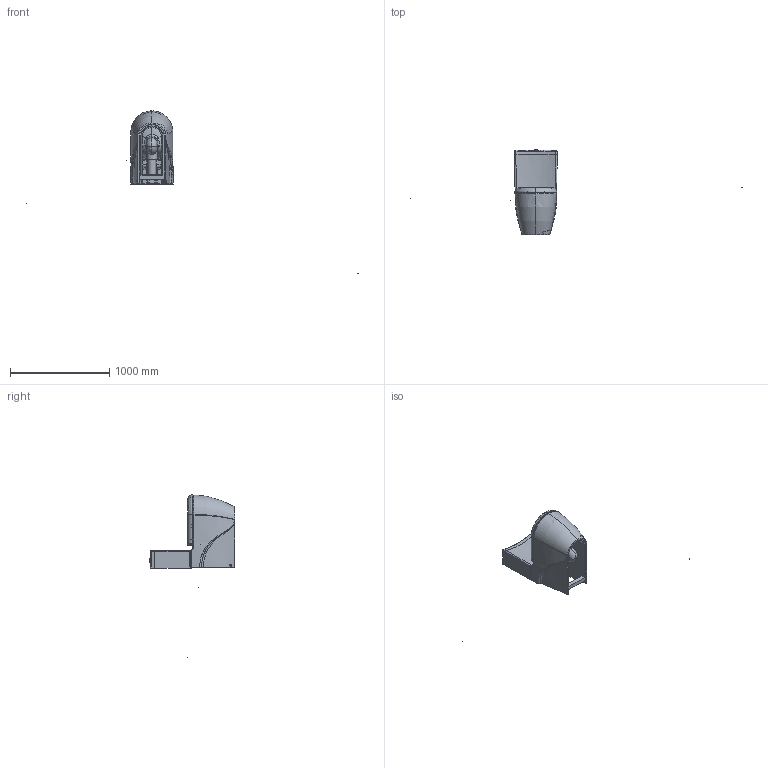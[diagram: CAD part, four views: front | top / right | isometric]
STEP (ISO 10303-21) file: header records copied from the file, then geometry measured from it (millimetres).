
FILE_DESCRIPTION (( 'STEP AP203' ), '1' );
FILE_NAME ('GR360+GR410+KC1403.01.000E.STEP', '2022-04-15T10:58:02', ( '' ), ( '' ), 'SwSTEP 2.0', 'SolidWorks 2021', '' );
FILE_SCHEMA (( 'CONFIG_CONTROL_DESIGN' ));
Products named in the file (1): GR360+GR410+KC1403.01.000E
Bounding box: 3342.89 x 858.63 x 1634.82 mm (x, y, z)
Volume: 64801662.9 mm3; surface area: 5002365.3 mm2
Topology: 39 solids, 39 shells, 1270 faces, 3106 edges, 1890 vertices
Faces by surface type: bspline 658, cylinder 258, plane 223, sphere 54, torus 41, cone 36
Entity records: 238541 total; most frequent: CARTESIAN_POINT 214750, ORIENTED_EDGE 6078, DIRECTION 3149, EDGE_CURVE 3039, VERTEX_POINT 1890, B_SPLINE_CURVE_WITH_KNOTS 1552, EDGE_LOOP 1337, AXIS2_PLACEMENT_3D 1275
